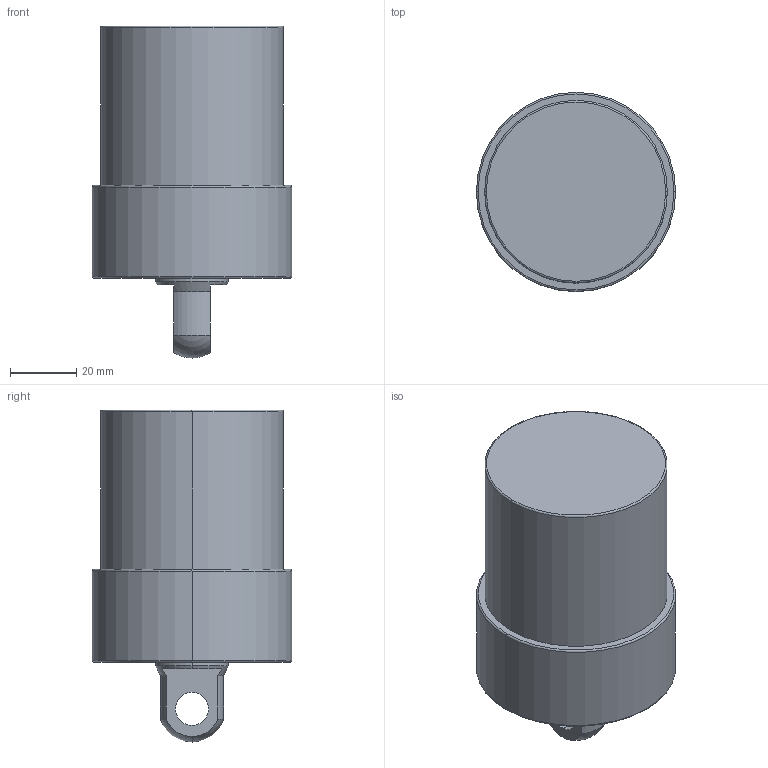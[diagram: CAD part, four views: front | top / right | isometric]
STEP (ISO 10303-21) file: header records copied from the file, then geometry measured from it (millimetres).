
FILE_DESCRIPTION (( 'STEP AP203' ), '1' );
FILE_NAME ('CLLU055-CP-035.STEP', '2017-05-12T10:43:45', ( '' ), ( '' ), 'SwSTEP 2.0', 'SolidWorks 2015', '' );
FILE_SCHEMA (( 'CONFIG_CONTROL_DESIGN' ));
Length unit declared in the file: millimetre
Products named in the file (1): CLLU055-CP-035
Bounding box: 60 x 60 x 100 mm (x, y, z)
Volume: 195437.2 mm3; surface area: 21547.5 mm2
Topology: 1 solids, 1 shells, 57 faces, 130 edges, 75 vertices
Faces by surface type: cylinder 22, cone 18, plane 9, torus 6, sphere 2
Entity records: 1643 total; most frequent: DIRECTION 308, CARTESIAN_POINT 267, ORIENTED_EDGE 244, AXIS2_PLACEMENT_3D 132, EDGE_CURVE 122, VERTEX_POINT 75, CIRCLE 74, EDGE_LOOP 67
